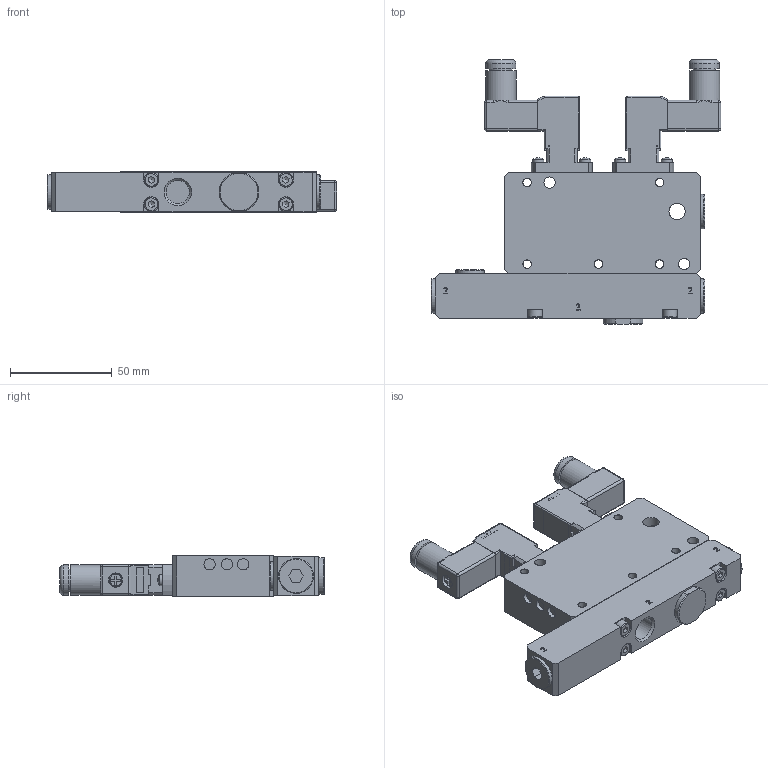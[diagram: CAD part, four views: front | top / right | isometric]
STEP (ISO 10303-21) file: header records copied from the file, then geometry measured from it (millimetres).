
FILE_DESCRIPTION(/* description */ ('GENERATORI DI VUOTO MULTISTADIO MODULARE 4 UGELLI (GVMES-4) SENZA VACUOSTATO'),/* implementation_level */ '2;1');
FILE_NAME(/* name */ 'C:\PNX_VAULTFOLDER\Area Tecnica\Disegni\VARIE-3D\Componenti\1900 (vuoto)\19M14_M_12_ME_01.stp',/* time_stamp */ '2021-05-04T09:56:07+02:00',/* author */ ('maniean1'),/* organization */ (''),/* preprocessor_version */ 'ST-DEVELOPER v18.1',/* originating_system */ 'Autodesk Inventor 2021',/* authorisation */ '');
FILE_SCHEMA (('AUTOMOTIVE_DESIGN { 1 0 10303 214 3 1 1 }'));
Length unit declared in the file: millimetre
Products named in the file (6): 19M14.M.12.ME.01; 19M14_M_09_ME_ED_c; N221.0F; T10714; T10718; 315.11.00
Assembly tree (9 placements, depth 2):
  19M14.M.12.ME.01
    19M14_M_09_ME_ED_c
    N221.0F  x2
    T10714  x3
    T10718
    315.11.00  x2
Bounding box: 141.9 x 129.85 x 20 mm (x, y, z)
Volume: 184692 mm3; surface area: 47232.9 mm2
Topology: 9 solids, 30 shells, 1062 faces, 2693 edges, 1732 vertices
Faces by surface type: plane 569, cylinder 243, bspline 154, cone 54, torus 24, sphere 18
Full cylindrical faces by diameter (mm): 1 x4, 2.459 x6, 3 x6, 3.2 x4, 3.242 x4, 3.8 x2, 4 x4, 4.1 x5, 4.4 x1, 4.9 x1, 5.5 x9, 6.5 x2, 6.9 x1, 7 x7, 7.6 x2, 8 x2, 8.566 x1, 10 x2, 10.4 x1, 10.8 x2, 11.445 x4, 13.2 x3, 14 x1, 14.8 x2, 15 x2, 17 x3
Entity records: 28733 total; most frequent: CARTESIAN_POINT 11719, ORIENTED_EDGE 3458, DIRECTION 3045, EDGE_CURVE 1729, VERTEX_POINT 1131, LINE 1045, VECTOR 1045, AXIS2_PLACEMENT_3D 1000
